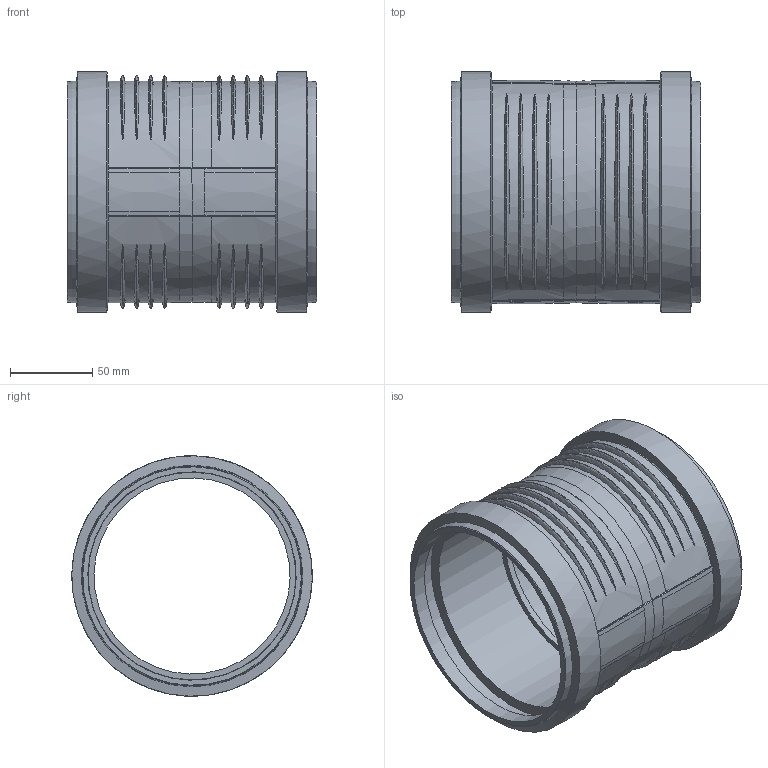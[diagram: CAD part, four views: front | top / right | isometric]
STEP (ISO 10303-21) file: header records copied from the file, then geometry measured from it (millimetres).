
FILE_DESCRIPTION(/* description */ (''),/* implementation_level */ '2;1');
FILE_NAME(/* name */ 'C:\Planerdaten\Export PLA\390.616.14.1\stp\390616.stp',/* time_stamp */ '2022-03-31T11:57:03+02:00',/* author */ ('JANAN'),/* organization */ (''),/* preprocessor_version */ 'ST-DEVELOPER v16.13',/* originating_system */ 'Autodesk Inventor 2018',/* authorisation */ '');
FILE_SCHEMA (('AUTOMOTIVE_DESIGN { 1 0 10303 214 3 1 1 }'));
Length unit declared in the file: millimetre
Products named in the file (1): tmp8710.tmp
Bounding box: 151.6 x 145.87 x 145.87 mm (x, y, z)
Volume: 309725.1 mm3; surface area: 156319.5 mm2
Topology: 1 solids, 1 shells, 175 faces, 381 edges, 218 vertices
Faces by surface type: bspline 142, torus 11, cylinder 9, cone 8, plane 4, sphere 1
Full cylindrical faces by diameter (mm): 119 x1, 126 x2, 126.4 x2, 138.1 x2, 145.9 x2
Entity records: 14853 total; most frequent: CARTESIAN_POINT 11302, ORIENTED_EDGE 722, DIRECTION 597, EDGE_CURVE 361, AXIS2_PLACEMENT_3D 284, VERTEX_POINT 235, EDGE_LOOP 224, CIRCLE 218
